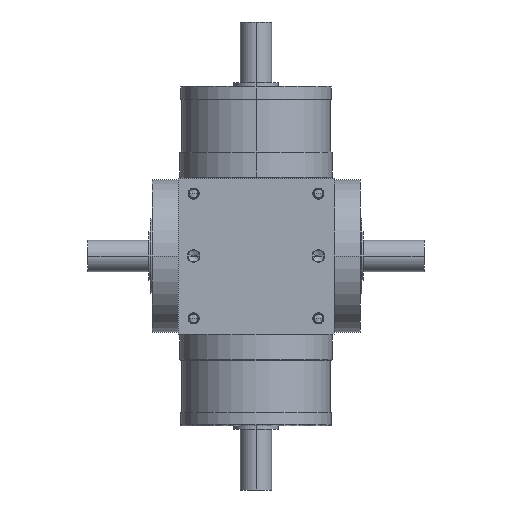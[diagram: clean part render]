
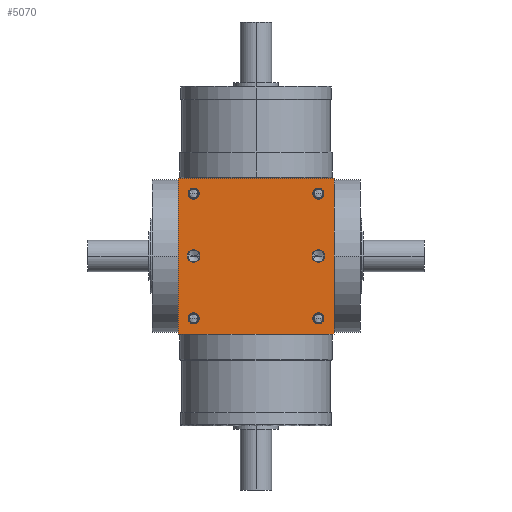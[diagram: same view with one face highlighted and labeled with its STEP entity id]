
A CAD part, front view. The second image highlights one B-rep face of the part: STEP entity #5070.
In plain terms, the highlighted planar face has unit normal (0, -1, 0).
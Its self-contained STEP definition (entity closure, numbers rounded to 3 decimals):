
#5=DIRECTION('',(1.,0.,0.));
#6=VECTOR('',#5,90.);
#7=CARTESIAN_POINT('',(-45.,-45.,-45.));
#8=LINE('',#7,#6);
#165=DIRECTION('',(0.,0.,1.));
#166=VECTOR('',#165,90.);
#167=CARTESIAN_POINT('',(45.,-45.,-45.));
#168=LINE('',#167,#166);
#219=DIRECTION('',(0.,0.,1.));
#220=VECTOR('',#219,90.);
#221=CARTESIAN_POINT('',(-45.,-45.,-45.));
#222=LINE('',#221,#220);
#223=CARTESIAN_POINT('',(36.,-45.,36.));
#224=DIRECTION('',(0.,1.,0.));
#225=DIRECTION('',(-1.,0.,0.));
#226=AXIS2_PLACEMENT_3D('',#223,#224,#225);
#228=CARTESIAN_POINT('',(36.,-45.,36.));
#229=DIRECTION('',(0.,1.,0.));
#230=DIRECTION('',(1.,0.,0.));
#231=AXIS2_PLACEMENT_3D('',#228,#229,#230);
#233=CARTESIAN_POINT('',(-36.,-45.,36.));
#234=DIRECTION('',(0.,1.,0.));
#235=DIRECTION('',(-1.,0.,0.));
#236=AXIS2_PLACEMENT_3D('',#233,#234,#235);
#238=CARTESIAN_POINT('',(-36.,-45.,36.));
#239=DIRECTION('',(0.,1.,0.));
#240=DIRECTION('',(1.,0.,0.));
#241=AXIS2_PLACEMENT_3D('',#238,#239,#240);
#243=CARTESIAN_POINT('',(36.,-45.,-36.));
#244=DIRECTION('',(0.,1.,0.));
#245=DIRECTION('',(-1.,0.,0.));
#246=AXIS2_PLACEMENT_3D('',#243,#244,#245);
#248=CARTESIAN_POINT('',(36.,-45.,-36.));
#249=DIRECTION('',(0.,1.,0.));
#250=DIRECTION('',(1.,0.,0.));
#251=AXIS2_PLACEMENT_3D('',#248,#249,#250);
#253=CARTESIAN_POINT('',(-36.,-45.,-36.));
#254=DIRECTION('',(0.,1.,0.));
#255=DIRECTION('',(-1.,0.,0.));
#256=AXIS2_PLACEMENT_3D('',#253,#254,#255);
#258=CARTESIAN_POINT('',(-36.,-45.,-36.));
#259=DIRECTION('',(0.,1.,0.));
#260=DIRECTION('',(1.,0.,0.));
#261=AXIS2_PLACEMENT_3D('',#258,#259,#260);
#263=CARTESIAN_POINT('',(-36.,-45.,0.));
#264=DIRECTION('',(0.,1.,0.));
#265=DIRECTION('',(1.,0.,0.));
#266=AXIS2_PLACEMENT_3D('',#263,#264,#265);
#268=CARTESIAN_POINT('',(-36.,-45.,0.));
#269=DIRECTION('',(0.,1.,0.));
#270=DIRECTION('',(-1.,0.,0.));
#271=AXIS2_PLACEMENT_3D('',#268,#269,#270);
#273=CARTESIAN_POINT('',(36.,-45.,0.));
#274=DIRECTION('',(0.,1.,0.));
#275=DIRECTION('',(1.,0.,0.));
#276=AXIS2_PLACEMENT_3D('',#273,#274,#275);
#278=CARTESIAN_POINT('',(36.,-45.,0.));
#279=DIRECTION('',(0.,1.,0.));
#280=DIRECTION('',(-1.,0.,0.));
#281=AXIS2_PLACEMENT_3D('',#278,#279,#280);
#295=DIRECTION('',(1.,0.,0.));
#296=VECTOR('',#295,90.);
#297=CARTESIAN_POINT('',(-45.,-45.,45.));
#298=LINE('',#297,#296);
#4044=CARTESIAN_POINT('',(-45.,-45.,-45.));
#4046=VERTEX_POINT('',#4044);
#4047=CARTESIAN_POINT('',(45.,-45.,-45.));
#4048=VERTEX_POINT('',#4047);
#4052=CARTESIAN_POINT('',(-45.,-45.,45.));
#4054=VERTEX_POINT('',#4052);
#4055=CARTESIAN_POINT('',(45.,-45.,45.));
#4056=VERTEX_POINT('',#4055);
#4235=CARTESIAN_POINT('',(32.8,-45.,36.));
#4236=CARTESIAN_POINT('',(39.2,-45.,36.));
#4237=VERTEX_POINT('',#4235);
#4238=VERTEX_POINT('',#4236);
#4243=CARTESIAN_POINT('',(-39.2,-45.,36.));
#4244=CARTESIAN_POINT('',(-32.8,-45.,36.));
#4245=VERTEX_POINT('',#4243);
#4246=VERTEX_POINT('',#4244);
#4251=CARTESIAN_POINT('',(32.8,-45.,-36.));
#4252=CARTESIAN_POINT('',(39.2,-45.,-36.));
#4253=VERTEX_POINT('',#4251);
#4254=VERTEX_POINT('',#4252);
#4259=CARTESIAN_POINT('',(-39.2,-45.,-36.));
#4260=CARTESIAN_POINT('',(-32.8,-45.,-36.));
#4261=VERTEX_POINT('',#4259);
#4262=VERTEX_POINT('',#4260);
#4619=CARTESIAN_POINT('',(-32.35,-45.,0.));
#4620=CARTESIAN_POINT('',(-39.65,-45.,
0.));
#4621=VERTEX_POINT('',#4619);
#4622=VERTEX_POINT('',#4620);
#4627=CARTESIAN_POINT('',(39.65,-45.,0.));
#4628=CARTESIAN_POINT('',(32.35,-45.,0.));
#4629=VERTEX_POINT('',#4627);
#4630=VERTEX_POINT('',#4628);
#5022=CARTESIAN_POINT('',(-45.,-45.,-45.));
#5023=DIRECTION('',(0.,-1.,0.));
#5024=DIRECTION('',(1.,0.,0.));
#5025=AXIS2_PLACEMENT_3D('',#5022,#5023,#5024);
#5026=PLANE('',#5025);
#5027=ORIENTED_EDGE('',*,*,#4856,.F.);
#5028=ORIENTED_EDGE('',*,*,#4905,.T.);
#5030=ORIENTED_EDGE('',*,*,#5029,.T.);
#5031=ORIENTED_EDGE('',*,*,#4984,.F.);
#5032=EDGE_LOOP('',(#5027,#5028,#5030,#5031));
#5033=FACE_OUTER_BOUND('',#5032,.F.);
#5035=ORIENTED_EDGE('',*,*,#5034,.F.);
#5037=ORIENTED_EDGE('',*,*,#5036,.F.);
#5038=EDGE_LOOP('',(#5035,#5037));
#5039=FACE_BOUND('',#5038,.F.);
#5041=ORIENTED_EDGE('',*,*,#5040,.F.);
#5043=ORIENTED_EDGE('',*,*,#5042,.F.);
#5044=EDGE_LOOP('',(#5041,#5043));
#5045=FACE_BOUND('',#5044,.F.);
#5047=ORIENTED_EDGE('',*,*,#5046,.F.);
#5049=ORIENTED_EDGE('',*,*,#5048,.F.);
#5050=EDGE_LOOP('',(#5047,#5049));
#5051=FACE_BOUND('',#5050,.F.);
#5053=ORIENTED_EDGE('',*,*,#5052,.F.);
#5055=ORIENTED_EDGE('',*,*,#5054,.F.);
#5056=EDGE_LOOP('',(#5053,#5055));
#5057=FACE_BOUND('',#5056,.F.);
#5059=ORIENTED_EDGE('',*,*,#5058,.F.);
#5061=ORIENTED_EDGE('',*,*,#5060,.F.);
#5062=EDGE_LOOP('',(#5059,#5061));
#5063=FACE_BOUND('',#5062,.F.);
#5065=ORIENTED_EDGE('',*,*,#5064,.F.);
#5067=ORIENTED_EDGE('',*,*,#5066,.F.);
#5068=EDGE_LOOP('',(#5065,#5067));
#5069=FACE_BOUND('',#5068,.F.);
#5070=ADVANCED_FACE('',(#5033,#5039,#5045,#5051,#5057,#5063,#5069),#5026,.T.);
#227=CIRCLE('',#226,3.2);
#232=CIRCLE('',#231,3.2);
#237=CIRCLE('',#236,3.2);
#242=CIRCLE('',#241,3.2);
#247=CIRCLE('',#246,3.2);
#252=CIRCLE('',#251,3.2);
#257=CIRCLE('',#256,3.2);
#262=CIRCLE('',#261,3.2);
#267=CIRCLE('',#266,3.65);
#272=CIRCLE('',#271,3.65);
#277=CIRCLE('',#276,3.65);
#282=CIRCLE('',#281,3.65);
#4856=EDGE_CURVE('',#4046,#4048,#8,.T.);
#4905=EDGE_CURVE('',#4046,#4054,#222,.T.);
#4984=EDGE_CURVE('',#4048,#4056,#168,.T.);
#5029=EDGE_CURVE('',#4054,#4056,#298,.T.);
#5034=EDGE_CURVE('',#4237,#4238,#227,.T.);
#5036=EDGE_CURVE('',#4238,#4237,#232,.T.);
#5040=EDGE_CURVE('',#4245,#4246,#237,.T.);
#5042=EDGE_CURVE('',#4246,#4245,#242,.T.);
#5046=EDGE_CURVE('',#4253,#4254,#247,.T.);
#5048=EDGE_CURVE('',#4254,#4253,#252,.T.);
#5052=EDGE_CURVE('',#4261,#4262,#257,.T.);
#5054=EDGE_CURVE('',#4262,#4261,#262,.T.);
#5058=EDGE_CURVE('',#4621,#4622,#267,.T.);
#5060=EDGE_CURVE('',#4622,#4621,#272,.T.);
#5064=EDGE_CURVE('',#4629,#4630,#277,.T.);
#5066=EDGE_CURVE('',#4630,#4629,#282,.T.);
